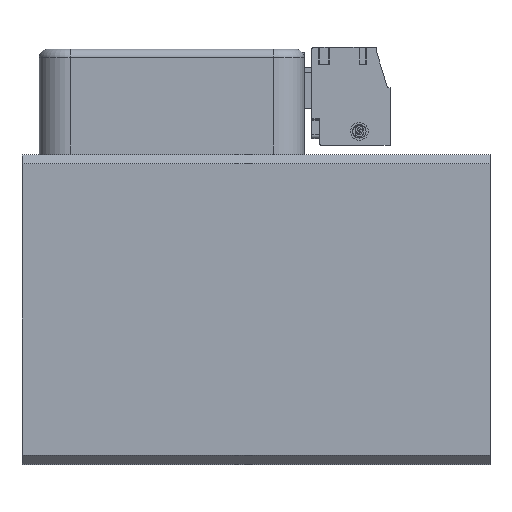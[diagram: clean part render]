
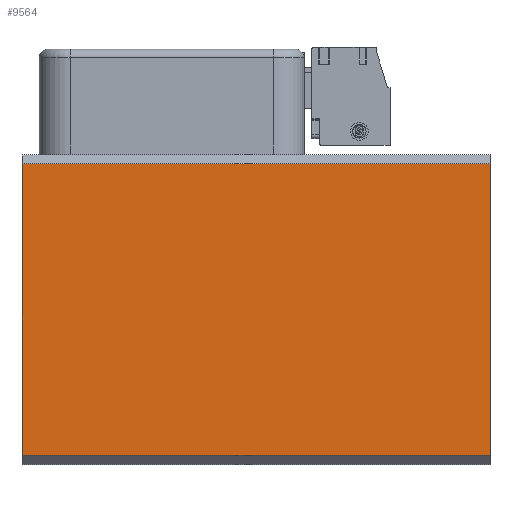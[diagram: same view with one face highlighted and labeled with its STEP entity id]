
A CAD part, top view. The second image highlights one B-rep face of the part: STEP entity #9564.
In plain terms, the highlighted planar face has unit normal (0, 0, 1).
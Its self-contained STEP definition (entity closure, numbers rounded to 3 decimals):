
#480 = LINE ( 'NONE', #11677, #9447 ) ;
#523 = EDGE_LOOP ( 'NONE', ( #4111, #4316, #2393, #16427 ) ) ;
#1537 = DIRECTION ( 'NONE',  ( -1., 0., 0. ) ) ;
#1588 = DIRECTION ( 'NONE',  ( 0., -1., 0. ) ) ;
#2393 = ORIENTED_EDGE ( 'NONE', *, *, #13367, .F. ) ;
#2636 = VERTEX_POINT ( 'NONE', #19548 ) ;
#3178 = EDGE_CURVE ( 'NONE', #2636, #21153, #16006, .T. ) ;
#3911 = DIRECTION ( 'NONE',  ( 0., -1., 0. ) ) ;
#4031 = CARTESIAN_POINT ( 'NONE',  ( 53., -16.5, 17.5 ) ) ;
#4111 = ORIENTED_EDGE ( 'NONE', *, *, #16669, .T. ) ;
#4316 = ORIENTED_EDGE ( 'NONE', *, *, #3178, .T. ) ;
#4785 = LINE ( 'NONE', #8978, #17845 ) ;
#5540 = CARTESIAN_POINT ( 'NONE',  ( 53., -16.5, 17.5 ) ) ;
#5726 = CARTESIAN_POINT ( 'NONE',  ( 0., 16.5, 17.5 ) ) ;
#7231 = VECTOR ( 'NONE', #10304, 1000. ) ;
#7781 = LINE ( 'NONE', #8634, #7231 ) ;
#8634 = CARTESIAN_POINT ( 'NONE',  ( 53., 16.5, 17.5 ) ) ;
#8978 = CARTESIAN_POINT ( 'NONE',  ( 53., -17.5, 17.5 ) ) ;
#9447 = VECTOR ( 'NONE', #1588, 1000. ) ;
#9564 = ADVANCED_FACE ( 'NONE', ( #11614 ), #18259, .F. ) ;
#10304 = DIRECTION ( 'NONE',  ( -1., 0., 0. ) ) ;
#10636 = AXIS2_PLACEMENT_3D ( 'NONE', #21867, #11630, #1537 ) ;
#10761 = VERTEX_POINT ( 'NONE', #5726 ) ;
#11469 = VECTOR ( 'NONE', #19389, 1000. ) ;
#11614 = FACE_OUTER_BOUND ( 'NONE', #523, .T. ) ;
#11630 = DIRECTION ( 'NONE',  ( 0., 0., -1. ) ) ;
#11677 = CARTESIAN_POINT ( 'NONE',  ( 0., -17.5, 17.5 ) ) ;
#13367 = EDGE_CURVE ( 'NONE', #19280, #21153, #4785, .T. ) ;
#16006 = LINE ( 'NONE', #4031, #11469 ) ;
#16427 = ORIENTED_EDGE ( 'NONE', *, *, #17706, .T. ) ;
#16669 = EDGE_CURVE ( 'NONE', #10761, #2636, #480, .T. ) ;
#17706 = EDGE_CURVE ( 'NONE', #19280, #10761, #7781, .T. ) ;
#17845 = VECTOR ( 'NONE', #3911, 1000. ) ;
#18259 = PLANE ( 'NONE',  #10636 ) ;
#19280 = VERTEX_POINT ( 'NONE', #21262 ) ;
#19389 = DIRECTION ( 'NONE',  ( 1., 0., 0. ) ) ;
#19548 = CARTESIAN_POINT ( 'NONE',  ( 0., -16.5, 17.5 ) ) ;
#21153 = VERTEX_POINT ( 'NONE', #5540 ) ;
#21262 = CARTESIAN_POINT ( 'NONE',  ( 53., 16.5, 17.5 ) ) ;
#21867 = CARTESIAN_POINT ( 'NONE',  ( 53., -17.5, 17.5 ) ) ;
